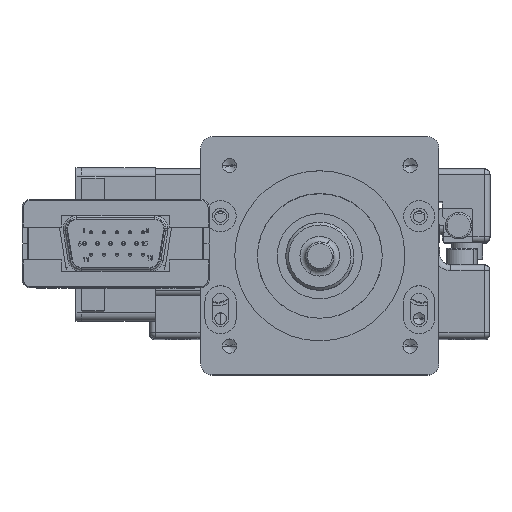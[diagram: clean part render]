
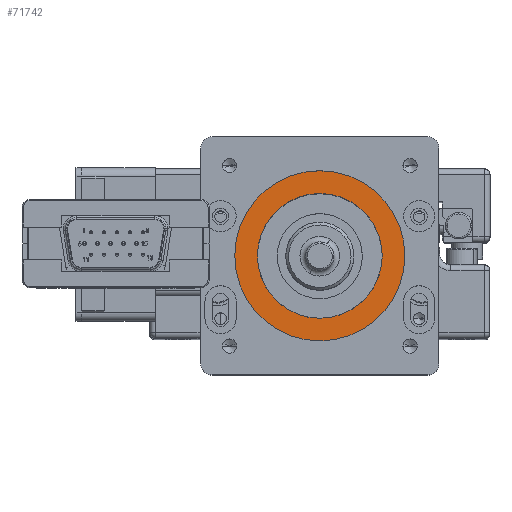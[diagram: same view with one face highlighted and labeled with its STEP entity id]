
A CAD part, top view. The second image highlights one B-rep face of the part: STEP entity #71742.
In plain terms, the highlighted planar face has unit normal (0, 0, 1).
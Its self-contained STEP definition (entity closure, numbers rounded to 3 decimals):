
#1009 = CARTESIAN_POINT ( 'NONE',  ( 0., 0., 36.5 ) ) ;
#1020 = EDGE_CURVE ( 'NONE', #31684, #59156, #16629, .T. ) ;
#1111 = CARTESIAN_POINT ( 'NONE',  ( -11., 0., 36.5 ) ) ;
#1262 = CARTESIAN_POINT ( 'NONE',  ( 11., 0., 36.5 ) ) ;
#2228 = DIRECTION ( 'NONE',  ( 1., 0., 0. ) ) ;
#3062 = DIRECTION ( 'NONE',  ( 0., 0., 1. ) ) ;
#3880 = CARTESIAN_POINT ( 'NONE',  ( 0., 0., 36.5 ) ) ;
#6603 = CIRCLE ( 'NONE', #52806, 11. ) ;
#9094 = EDGE_CURVE ( 'NONE', #37011, #80870, #64696, .T. ) ;
#9291 = EDGE_CURVE ( 'NONE', #80870, #37011, #6603, .T. ) ;
#9622 = DIRECTION ( 'NONE',  ( 0., 0., 1. ) ) ;
#12420 = EDGE_LOOP ( 'NONE', ( #17526, #54265 ) ) ;
#15791 = FACE_BOUND ( 'NONE', #29842, .T. ) ;
#16629 = CIRCLE ( 'NONE', #81350, 15. ) ;
#17526 = ORIENTED_EDGE ( 'NONE', *, *, #63646, .T. ) ;
#21412 = DIRECTION ( 'NONE',  ( 1., 0., 0. ) ) ;
#22624 = CARTESIAN_POINT ( 'NONE',  ( -15., 0., 36.5 ) ) ;
#26925 = CARTESIAN_POINT ( 'NONE',  ( 15., 0., 36.5 ) ) ;
#29842 = EDGE_LOOP ( 'NONE', ( #71245, #42306 ) ) ;
#31624 = AXIS2_PLACEMENT_3D ( 'NONE', #1009, #76699, #50654 ) ;
#31684 = VERTEX_POINT ( 'NONE', #22624 ) ;
#32596 = CARTESIAN_POINT ( 'NONE',  ( 0., 0., 36.5 ) ) ;
#34799 = DIRECTION ( 'NONE',  ( 1., 0., 0. ) ) ;
#37011 = VERTEX_POINT ( 'NONE', #1262 ) ;
#41025 = PLANE ( 'NONE',  #44584 ) ;
#41063 = CARTESIAN_POINT ( 'NONE',  ( 0., 0., 36.5 ) ) ;
#42306 = ORIENTED_EDGE ( 'NONE', *, *, #9291, .T. ) ;
#44156 = CIRCLE ( 'NONE', #56054, 15. ) ;
#44584 = AXIS2_PLACEMENT_3D ( 'NONE', #66298, #9622, #34799 ) ;
#50654 = DIRECTION ( 'NONE',  ( 1., 0., 0. ) ) ;
#52806 = AXIS2_PLACEMENT_3D ( 'NONE', #41063, #66335, #78330 ) ;
#53292 = DIRECTION ( 'NONE',  ( 0., 0., 1. ) ) ;
#54265 = ORIENTED_EDGE ( 'NONE', *, *, #1020, .T. ) ;
#56054 = AXIS2_PLACEMENT_3D ( 'NONE', #32596, #53292, #21412 ) ;
#59156 = VERTEX_POINT ( 'NONE', #26925 ) ;
#63646 = EDGE_CURVE ( 'NONE', #59156, #31684, #44156, .T. ) ;
#64696 = CIRCLE ( 'NONE', #31624, 11. ) ;
#66298 = CARTESIAN_POINT ( 'NONE',  ( 0., 0., 36.5 ) ) ;
#66335 = DIRECTION ( 'NONE',  ( 0., 0., -1. ) ) ;
#71245 = ORIENTED_EDGE ( 'NONE', *, *, #9094, .T. ) ;
#71742 = ADVANCED_FACE ( 'NONE', ( #72484, #15791 ), #41025, .T. ) ;
#72484 = FACE_OUTER_BOUND ( 'NONE', #12420, .T. ) ;
#76699 = DIRECTION ( 'NONE',  ( 0., 0., -1. ) ) ;
#78330 = DIRECTION ( 'NONE',  ( 1., 0., 0. ) ) ;
#80870 = VERTEX_POINT ( 'NONE', #1111 ) ;
#81350 = AXIS2_PLACEMENT_3D ( 'NONE', #3880, #3062, #2228 ) ;
